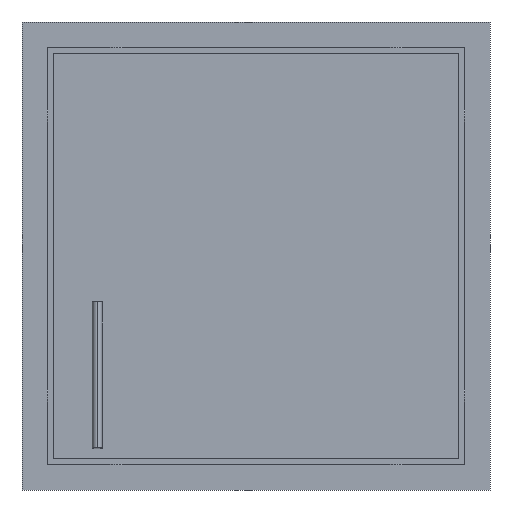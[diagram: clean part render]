
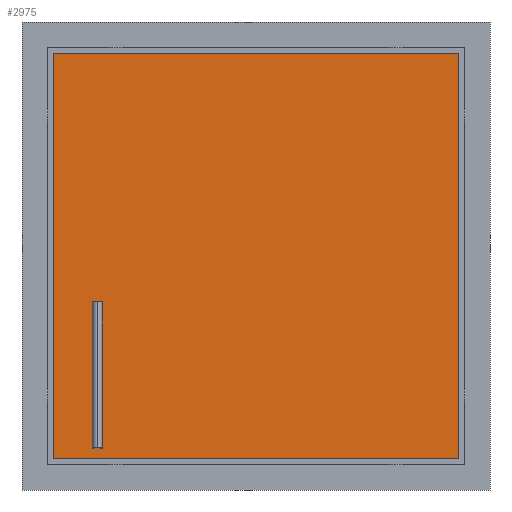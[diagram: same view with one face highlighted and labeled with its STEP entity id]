
A CAD part, front view. The second image highlights one B-rep face of the part: STEP entity #2975.
In plain terms, the highlighted planar face has unit normal (0, -1, 0).
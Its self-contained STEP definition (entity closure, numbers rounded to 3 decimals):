
#2706=DIRECTION('',(0.,0.,-1.));
#2707=VECTOR('',#2706,1048.);
#2708=CARTESIAN_POINT('',(524.,79.,515.));
#2709=LINE('',#2708,#2707);
#2714=DIRECTION('',(-1.,0.,0.));
#2715=VECTOR('',#2714,1048.);
#2716=CARTESIAN_POINT('',(524.,79.,-533.));
#2717=LINE('',#2716,#2715);
#2722=DIRECTION('',(0.,0.,1.));
#2723=VECTOR('',#2722,1048.);
#2724=CARTESIAN_POINT('',(-524.,79.,-533.));
#2725=LINE('',#2724,#2723);
#2730=DIRECTION('',(1.,0.,0.));
#2731=VECTOR('',#2730,1048.);
#2732=CARTESIAN_POINT('',(-524.,79.,515.));
#2733=LINE('',#2732,#2731);
#2805=CARTESIAN_POINT('',(524.,79.,515.));
#2806=CARTESIAN_POINT('',(524.,79.,-533.));
#2807=VERTEX_POINT('',#2805);
#2808=VERTEX_POINT('',#2806);
#2809=CARTESIAN_POINT('',(-524.,79.,-533.));
#2810=VERTEX_POINT('',#2809);
#2811=CARTESIAN_POINT('',(-524.,79.,515.));
#2812=VERTEX_POINT('',#2811);
#2961=CARTESIAN_POINT('',(0.,79.,0.));
#2962=DIRECTION('',(0.,1.,0.));
#2963=DIRECTION('',(0.,0.,-1.));
#2964=AXIS2_PLACEMENT_3D('',#2961,#2962,#2963);
#2965=PLANE('',#2964);
#2966=ORIENTED_EDGE('',*,*,#2951,.T.);
#2968=ORIENTED_EDGE('',*,*,#2967,.T.);
#2970=ORIENTED_EDGE('',*,*,#2969,.T.);
#2972=ORIENTED_EDGE('',*,*,#2971,.T.);
#2973=EDGE_LOOP('',(#2966,#2968,#2970,#2972));
#2974=FACE_OUTER_BOUND('',#2973,.F.);
#2975=ADVANCED_FACE('',(#2974),#2965,.F.);
#2951=EDGE_CURVE('',#2807,#2808,#2709,.T.);
#2967=EDGE_CURVE('',#2808,#2810,#2717,.T.);
#2969=EDGE_CURVE('',#2810,#2812,#2725,.T.);
#2971=EDGE_CURVE('',#2812,#2807,#2733,.T.);
